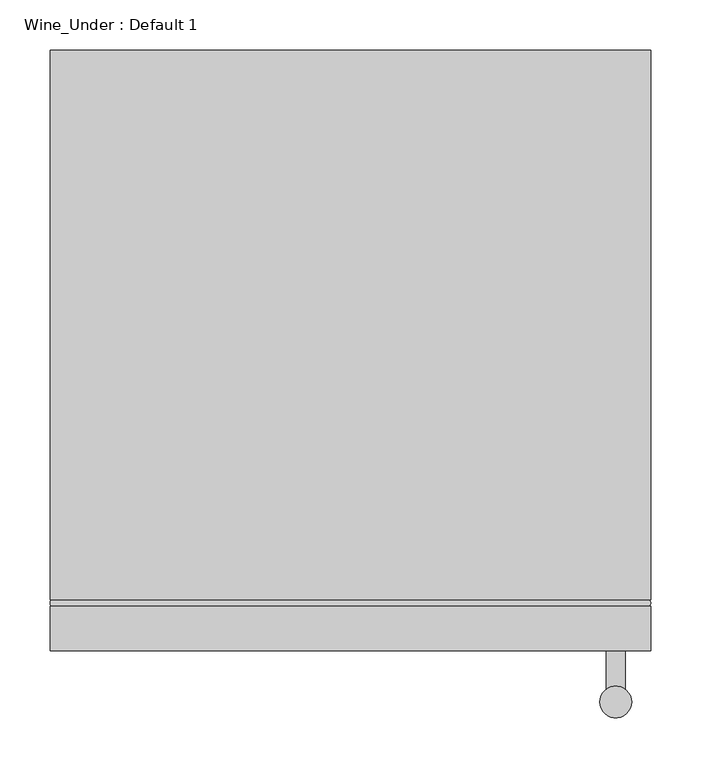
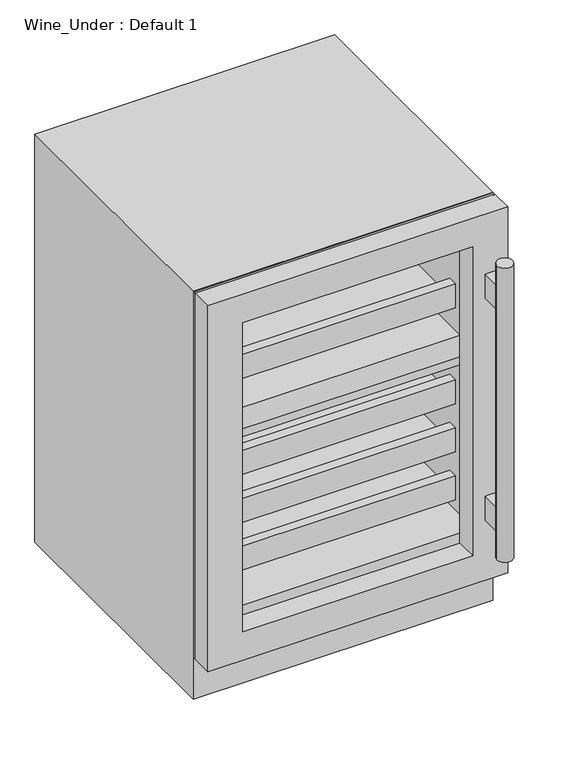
"""IFC4 building model written with IfcOpenShell, lengths in millimetres: proxy geometry, Wine_Under : Default 1."""

from ifc_helpers import new_model, si_unit, frame, origin, place, context, project, spatial, polyline, circle_curve, ellipse_curve, outline, extrude, faceted_brep, source, transform, mapped, element, save
from ifc_brep_helpers import plane_surface, cylinder_surface, advanced_brep


def wine_under_default_1_0eb686b8(model_context):
    return source(origin(), model_context, "Body", "SolidModel", [
        advanced_brep(
        [(-296.825, -555.55, 860.425), (-296.825, -549.2, 860.425), (-296.825, -549.2, 92.075), (-296.825, -555.55, 92.075), (-293.65, -549.2, 857.25), (-293.65, -555.55, 857.25), (-293.65, -555.55, 95.25), (-293.65, -549.2, 95.25), (296.825, -549.2, 92.075), (296.825, -555.55, 92.075), (293.65, -555.55, 95.25), (293.65, -549.2, 95.25), (296.825, -549.2, 860.425), (296.825, -555.55, 860.425), (293.65, -555.55, 857.25), (293.65, -549.2, 857.25)],
        [
            (0, 1, ellipse_curve(frame((-296.825, -552.375, 860.425), z_axis=(-0.7071067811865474, 0.0, -0.7071067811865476), x_axis=(-0.7071067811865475, 0.0, 0.7071067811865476)), 4.4901281, 3.175)),
            (1, 2),
            (2, 3, ellipse_curve(frame((-296.825, -552.375, 92.075), z_axis=(-0.7071067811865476, 0.0, 0.7071067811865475), x_axis=(0.7071067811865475, 0.0, 0.7071067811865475)), 4.4901281, 3.175)),
            (3, 0),
            (4, 5),
            (5, 6),
            (6, 7),
            (7, 4),
            (2, 8),
            (8, 9, ellipse_curve(frame((296.825, -552.375, 92.075), z_axis=(-0.7071067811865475, 0.0, -0.7071067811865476), x_axis=(-0.7071067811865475, 0.0, 0.7071067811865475)), 4.4901281, 3.175)),
            (9, 3),
            (6, 10),
            (10, 11),
            (11, 7),
            (8, 12),
            (12, 13, ellipse_curve(frame((296.825, -552.375, 860.425), z_axis=(0.7071067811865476, 0.0, -0.7071067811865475), x_axis=(-0.7071067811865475, 0.0, -0.7071067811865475)), 4.4901281, 3.175)),
            (13, 9),
            (10, 14),
            (14, 15),
            (15, 11),
            (1, 12),
            (15, 4),
            (0, 13),
            (5, 14),
        ],
        [
            cylinder_surface(frame((-296.825, -552.375, 863.6), z_axis=(0.0, 0.0, 1.0), x_axis=(0.0, -1.0, 0.0)), 3.175),
            plane_surface(frame((-293.65, -555.55, 857.25), z_axis=(1.0, 0.0, 0.0), x_axis=(0.0, 0.0, -1.0))),
            cylinder_surface(frame((-300.0, -552.375, 92.075), z_axis=(-1.0, 0.0, 0.0), x_axis=(0.0, -1.0, 0.0)), 3.175),
            plane_surface(frame((-293.65, -555.55, 95.25), z_axis=(0.0, 0.0, 1.0), x_axis=(1.0, 0.0, 0.0))),
            cylinder_surface(frame((296.825, -552.375, 88.9), z_axis=(0.0, 0.0, -1.0), x_axis=(0.0, -1.0, 0.0)), 3.175),
            plane_surface(frame((293.65, -555.55, 95.25), z_axis=(-1.0, 0.0, 0.0), x_axis=(0.0, 0.0, 1.0))),
            plane_surface(frame((293.65, -549.2, 857.25), z_axis=(0.0, 1.0, 0.0), x_axis=(-1.0, 0.0, 0.0))),
            cylinder_surface(frame((300.0, -552.375, 860.425), z_axis=(1.0, 0.0, 0.0), x_axis=(0.0, -1.0, 0.0)), 3.175),
            plane_surface(frame((296.825, -555.55, 860.425), z_axis=(0.0, -1.0, 0.0), x_axis=(-1.0, 0.0, 0.0))),
            plane_surface(frame((293.65, -555.55, 857.25), z_axis=(0.0, 0.0, -1.0), x_axis=(-1.0, 0.0, 0.0))),
        ],
        [
            (0, [[1, 2, 3, 4]]),
            (1, [[5, 6, 7, 8]]),
            (2, [[-3, 9, 10, 11]]),
            (3, [[-7, 12, 13, 14]]),
            (4, [[-10, 15, 16, 17]]),
            (5, [[-13, 18, 19, 20]]),
            (6, [[21, -15, -9, -2], [-14, -20, 22, -8]]),
            (7, [[-16, -21, -1, 23]]),
            (8, [[-11, -17, -23, -4], [24, -18, -12, -6]]),
            (9, [[-19, -24, -5, -22]]),
        ],
    ),
        advanced_brep(
        [(274.525, -600.0, 736.6), (274.525, -600.0, 685.8), (255.475, -600.0, 685.8), (255.475, -600.0, 736.6), (274.525, -600.0, 266.7), (274.525, -600.0, 215.9), (255.475, -600.0, 215.9), (255.475, -600.0, 266.7), (274.525, -638.4741958, 736.6), (274.525, -638.4741958, 685.8), (255.475, -638.4741958, 685.8), (255.475, -638.4741958, 736.6), (274.525, -638.4741958, 266.7), (274.525, -638.4741958, 215.9), (255.475, -638.4741958, 215.9), (255.475, -638.4741958, 266.7), (249.125, -651.1741958, 787.4), (280.875, -651.1741958, 787.4), (249.125, -651.1741958, 165.1), (280.875, -651.1741958, 165.1)],
        [
            (0, 1),
            (1, 2),
            (2, 3),
            (3, 0),
            (4, 5),
            (5, 6),
            (6, 7),
            (7, 4),
            (0, 8),
            (8, 9),
            (9, 1),
            (9, 10, circle_curve(frame((265.0, -651.1741958, 685.8), z_axis=(0.0, 0.0, 1.0), x_axis=(1.0, 0.0, 0.0)), 15.875)),
            (10, 2),
            (10, 11),
            (11, 3),
            (11, 8, circle_curve(frame((265.0, -651.1741958, 736.6), z_axis=(0.0, 0.0, -1.0), x_axis=(1.0, 0.0, 0.0)), 15.875)),
            (4, 12),
            (12, 13),
            (13, 5),
            (13, 14, circle_curve(frame((265.0, -651.1741958, 215.9), z_axis=(0.0, 0.0, 1.0), x_axis=(1.0, 0.0, 0.0)), 15.875)),
            (14, 6),
            (14, 15),
            (15, 7),
            (15, 12, circle_curve(frame((265.0, -651.1741958, 266.7), z_axis=(0.0, 0.0, -1.0), x_axis=(1.0, 0.0, 0.0)), 15.875)),
            (16, 17, circle_curve(frame((265.0, -651.1741958, 787.4), z_axis=(0.0, 0.0, 1.0), x_axis=(1.0, 0.0, 0.0)), 15.875)),
            (17, 16, circle_curve(frame((265.0, -651.1741958, 787.4), z_axis=(0.0, 0.0, 1.0), x_axis=(1.0, 0.0, 0.0)), 15.875)),
            (18, 19, circle_curve(frame((265.0, -651.1741958, 165.1), z_axis=(0.0, 0.0, -1.0), x_axis=(1.0, 0.0, 0.0)), 15.875)),
            (19, 18, circle_curve(frame((265.0, -651.1741958, 165.1), z_axis=(0.0, 0.0, -1.0), x_axis=(1.0, 0.0, 0.0)), 15.875)),
            (16, 18),
            (19, 17),
        ],
        [
            plane_surface(frame((274.525, -600.0, 736.6), z_axis=(0.0, 1.0, 0.0), x_axis=(0.0, 0.0, -1.0))),
            plane_surface(frame((274.525, -600.0, 736.6), z_axis=(1.0, 0.0, 0.0), x_axis=(0.0, -1.0, 0.0))),
            plane_surface(frame((274.525, -600.0, 685.8), z_axis=(0.0, 0.0, -1.0), x_axis=(0.0, -1.0, 0.0))),
            plane_surface(frame((255.475, -600.0, 685.8), z_axis=(-1.0, 0.0, 0.0), x_axis=(0.0, -1.0, 0.0))),
            plane_surface(frame((255.475, -600.0, 736.6), z_axis=(0.0, 0.0, 1.0), x_axis=(0.0, -1.0, 0.0))),
            plane_surface(frame((274.525, -600.0, 266.7), z_axis=(1.0, 0.0, 0.0), x_axis=(0.0, -1.0, 0.0))),
            plane_surface(frame((274.525, -600.0, 215.9), z_axis=(0.0, 0.0, -1.0), x_axis=(0.0, -1.0, 0.0))),
            plane_surface(frame((255.475, -600.0, 215.9), z_axis=(-1.0, 0.0, 0.0), x_axis=(0.0, -1.0, 0.0))),
            plane_surface(frame((255.475, -600.0, 266.7), z_axis=(0.0, 0.0, 1.0), x_axis=(0.0, -1.0, 0.0))),
            plane_surface(frame((280.875, -651.1741958, 787.4), z_axis=(0.0, 0.0, 1.0), x_axis=(0.0, 1.0, 0.0))),
            plane_surface(frame((280.875, -651.1741958, 165.1), z_axis=(0.0, 0.0, -1.0), x_axis=(0.0, -1.0, 0.0))),
            cylinder_surface(frame((265.0, -651.1741958, 165.1), z_axis=(0.0, 0.0, 1.0), x_axis=(1.0, 0.0, 0.0)), 15.875),
        ],
        [
            (0, [[1, 2, 3, 4]]),
            (0, [[5, 6, 7, 8]]),
            (1, [[-1, 9, 10, 11]]),
            (2, [[-2, -11, 12, 13]]),
            (3, [[-3, -13, 14, 15]]),
            (4, [[-4, -15, 16, -9]]),
            (5, [[-5, 17, 18, 19]]),
            (6, [[-6, -19, 20, 21]]),
            (7, [[-7, -21, 22, 23]]),
            (8, [[-8, -23, 24, -17]]),
            (9, [[25, 26]]),
            (10, [[27, 28]]),
            (11, [[-25, 29, -28, 30]]),
            (11, [[-26, -30, -27, -29], [-10, -16, -14, -12], [-18, -24, -22, -20]]),
        ],
    ),
        extrude(outline(polyline([(-530.15, 506.4125), (-530.15, 523.3165003), (-520.2168556, 560.3875), (-50.8, 560.3875), (-50.8, 506.4125), (-530.15, 506.4125)])), frame((-250.7875, 0.0, 0.0), z_axis=(1.0, 0.0, 0.0), x_axis=(0.0, 1.0, 0.0)), (0.0, 0.0, 1.0), 501.575),
        extrude(outline(polyline([(-504.75, 203.2), (-504.75, 254.0), (-485.7, 254.0), (-485.7, 215.9), (-50.8, 215.9), (-50.8, 203.2), (-504.75, 203.2)])), frame((-250.7875, 0.0, 0.0), z_axis=(1.0, 0.0, 0.0), x_axis=(0.0, 1.0, 0.0)), (0.0, 0.0, 1.0), 501.575),
        extrude(outline(polyline([(-504.75, 304.8), (-504.75, 355.6), (-485.7, 355.6), (-485.7, 317.5), (-50.8, 317.5), (-50.8, 304.8), (-504.75, 304.8)])), frame((-250.7875, 0.0, 0.0), z_axis=(1.0, 0.0, 0.0), x_axis=(0.0, 1.0, 0.0)), (0.0, 0.0, 1.0), 501.575),
        extrude(outline(polyline([(-504.75, 406.4), (-504.75, 457.2), (-485.7, 457.2), (-485.7, 419.1), (-50.8, 419.1), (-50.8, 406.4), (-504.75, 406.4)])), frame((-250.7875, 0.0, 0.0), z_axis=(1.0, 0.0, 0.0), x_axis=(0.0, 1.0, 0.0)), (0.0, 0.0, 1.0), 501.575),
        extrude(outline(polyline([(-504.75, 609.6), (-504.75, 660.4), (-485.7, 660.4), (-485.7, 622.3), (-50.8, 622.3), (-50.8, 609.6), (-504.75, 609.6)])), frame((-250.7875, 0.0, 0.0), z_axis=(1.0, 0.0, 0.0), x_axis=(0.0, 1.0, 0.0)), (0.0, 0.0, 1.0), 501.575),
        extrude(outline(polyline([(-504.75, 508.0), (-504.75, 558.8), (-485.7, 558.8), (-485.7, 520.7), (-50.8, 520.7), (-50.8, 508.0), (-504.75, 508.0)])), frame((-250.7875, 0.0, 0.0), z_axis=(1.0, 0.0, 0.0), x_axis=(0.0, 1.0, 0.0)), (0.0, 0.0, 1.0), 501.575),
        extrude(outline(polyline([(863.6, 300.0), (863.6, -300.0), (88.9, -300.0), (88.9, 300.0), (863.6, 300.0)]), holes=[polyline([(803.275, 230.15), (149.225, 230.15), (149.225, -230.15), (803.275, -230.15), (803.275, 230.15)])]), frame((0.0, -600.0, 0.0), z_axis=(0.0, 1.0, 0.0), x_axis=(0.0, 0.0, 1.0)), (0.0, 0.0, 1.0), 44.45),
        faceted_brep([(300.0, 0.0, 863.6), (-300.0, 0.0, 863.6), (-300.0, -549.2, 863.6), (300.0, -549.2, 863.6), (300.0, 0.0, 0.0), (300.0, -549.2, 0.0), (-300.0, -549.2, 0.0), (-300.0, 0.0, 0.0), (261.9, -549.2, 839.4013747), (261.9, -549.2, 165.1), (-261.9, -549.2, 165.1), (-261.9, -549.2, 839.4013747), (261.9, -50.8, 839.4013747), (-261.9, -50.8, 839.4013747), (-261.9, -50.8, 165.1), (261.9, -50.8, 165.1)], [[[0, 1, 2, 3]], [[4, 5, 6, 7]], [[1, 0, 4, 7]], [[2, 1, 7, 6]], [[3, 2, 6, 5], [8, 9, 10, 11]], [[0, 3, 5, 4]], [[12, 13, 14, 15]], [[12, 15, 9, 8]], [[14, 13, 11, 10]], [[13, 12, 8, 11]], [[15, 14, 10, 9]]]),
    ])


if __name__ == "__main__":
    model = new_model("IFC4")
    model_context = context("Model", 3, world=origin())
    ifc_project = project(units=[si_unit("LENGTHUNIT", "METRE", prefix="MILLI")], contexts=[model_context])
    site = spatial("IfcSite", under=ifc_project)
    building = spatial("IfcBuilding", under=site)
    placement = place(None, origin())
    wine_under_default_1_shape = wine_under_default_1_0eb686b8(model_context)
    element("IfcBuildingElementProxy", 1, Name="Wine_Under : Default 1", ObjectType="Wine_Under : Default 1", at=placement, inside=building, context=model_context, shape_type="MappedRepresentation", body=[
        mapped(wine_under_default_1_shape, transform((0.0, 0.0, 0.0), x_axis=(1.0, 0.0, 0.0), y_axis=(0.0, 1.0, 0.0), z_axis=(0.0, 0.0, 1.0))),
    ])
    save(model, "model.ifc")
